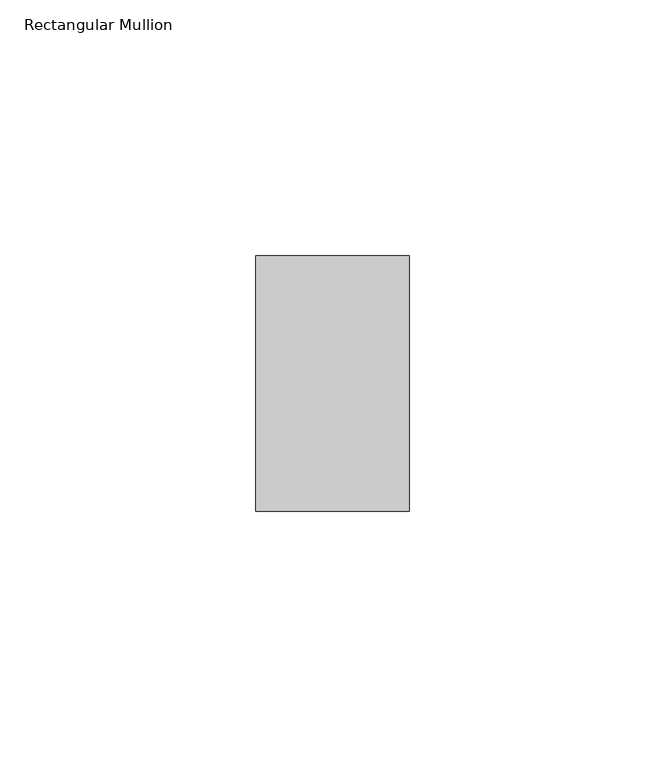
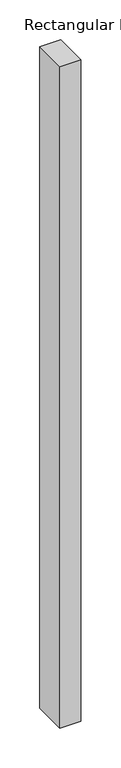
"""IFC4 building model written with IfcOpenShell, lengths in millimetres: member geometry, Rectangular Mullion : ARQ_TV_MULL_50x30mm."""

from ifc_helpers import new_model, si_unit, frame, origin, place, context, project, spatial, polyline, outline, extrude, source, transform, mapped, element, save


def rectangular_mullion_0dcc9bbc(model_context):
    return source(origin(), model_context, "Body", "SweptSolid", [
        extrude(outline(polyline([(15.0, 25.0), (15.0, -25.0), (-15.0, -25.0), (-15.0, 25.0), (15.0, 25.0)])), frame((0.0, 0.0, -1009.7664683), z_axis=(0.0, 0.0, 1.0), x_axis=(1.0, 0.0, 0.0)), (0.0, 0.0, 1.0), 1009.7664683),
    ])


if __name__ == "__main__":
    model = new_model("IFC4")
    model_context = context("Model", 3, world=origin())
    ifc_project = project(units=[si_unit("LENGTHUNIT", "METRE", prefix="MILLI")], contexts=[model_context])
    site = spatial("IfcSite", under=ifc_project)
    building = spatial("IfcBuilding", under=site)
    placement = place(None, origin())
    rectangular_mullion_shape = rectangular_mullion_0dcc9bbc(model_context)
    element("IfcMember", 1, ObjectType="Rectangular Mullion : ARQ_TV_MULL_50x30mm", at=placement, inside=building, context=model_context, shape_type="MappedRepresentation", body=[
        mapped(rectangular_mullion_shape, transform((0.0, 0.0, 0.0), x_axis=(1.0, 0.0, 0.0), y_axis=(0.0, 1.0, 0.0), z_axis=(0.0, 0.0, 1.0))),
    ])
    save(model, "model.ifc")
